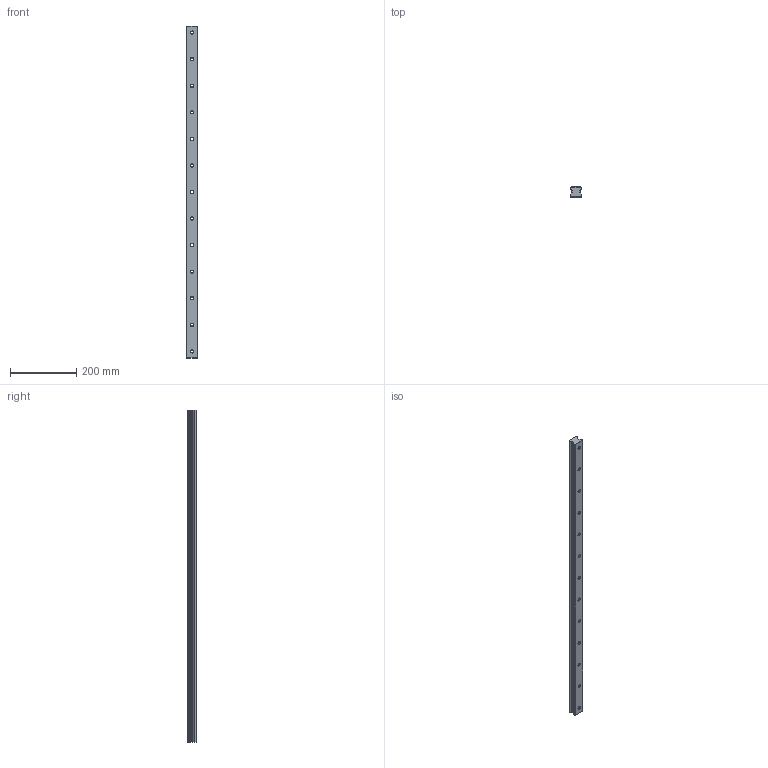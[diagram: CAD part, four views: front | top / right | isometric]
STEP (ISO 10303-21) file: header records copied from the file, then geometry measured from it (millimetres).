
FILE_DESCRIPTION(/* description */ (''),/* implementation_level */ '2;1');
FILE_NAME(/* name */ 'C:\Users\daviddillkoetter\ownCloud\Kamp und Kötter\Artikel\KPN_Profilführungen\Step\KPNR-35.stp',/* time_stamp */ '2021-01-27T11:19:38+01:00',/* author */ ('daviddillkoetter'),/* organization */ (''),/* preprocessor_version */ 'ST-DEVELOPER v18.1',/* originating_system */ 'Autodesk Inventor 2021',/* authorisation */ '');
FILE_SCHEMA (('AUTOMOTIVE_DESIGN { 1 0 10303 214 3 1 1 }'));
Length unit declared in the file: millimetre
Products named in the file (1): KPNR
Bounding box: 34 x 29 x 1000 mm (x, y, z)
Volume: 819749.2 mm3; surface area: 142912.2 mm2
Topology: 1 solids, 1 shells, 134 faces, 334 edges, 215 vertices
Faces by surface type: plane 57, cylinder 43, cone 34
Full cylindrical faces by diameter (mm): 9 x13, 14 x13
Entity records: 4190 total; most frequent: CARTESIAN_POINT 822, DIRECTION 719, ORIENTED_EDGE 668, EDGE_CURVE 334, AXIS2_PLACEMENT_3D 280, VERTEX_POINT 215, EDGE_LOOP 173, LINE 159
